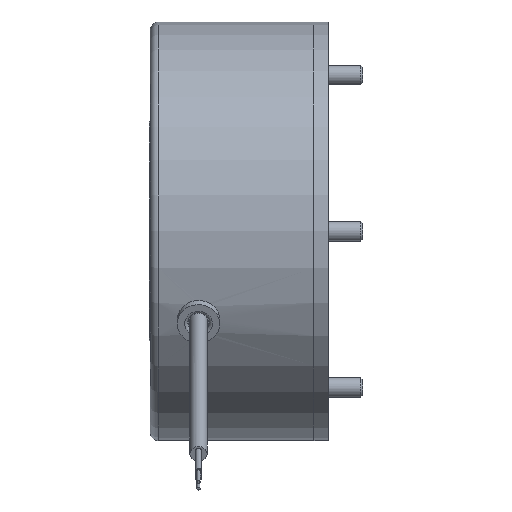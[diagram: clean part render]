
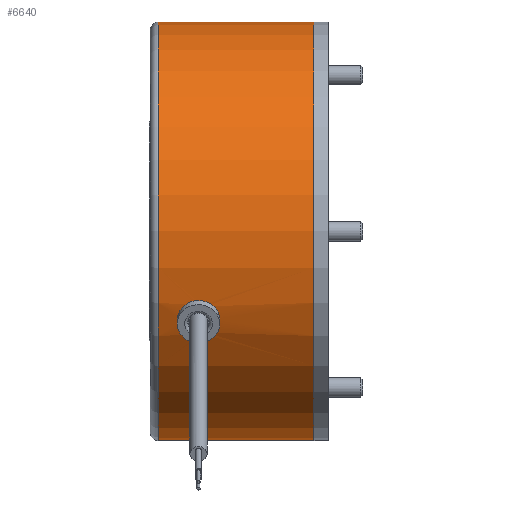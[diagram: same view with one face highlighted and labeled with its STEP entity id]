
A CAD part, front view. The second image highlights one B-rep face of the part: STEP entity #6640.
In plain terms, the highlighted cylindrical face has radius 65 mm (diameter 130 mm), a full revolution.
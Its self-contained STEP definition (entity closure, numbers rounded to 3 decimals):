
#164=B_SPLINE_CURVE_WITH_KNOTS('',3,(#10924,#10925,#10926,#10927,#10928,
#10929,#10930,#10931,#10932,#10933,#10934,#10935,#10936,#10937,#10938,#10939,
#10940,#10941,#10942),.UNSPECIFIED.,.F.,.F.,(4,2,2,2,3,2,2,2,4),(2.301,
2.493,2.685,2.877,3.068,3.26,
3.452,3.644,3.836),.UNSPECIFIED.);
#165=B_SPLINE_CURVE_WITH_KNOTS('',3,(#10945,#10946,#10947,#10948,#10949,
#10950,#10951,#10952,#10953,#10954,#10955,#10956,#10957,#10958,#10959,#10960,
#10961,#10962),.UNSPECIFIED.,.F.,.F.,(4,2,2,2,2,2,2,2,4),(0.767,
0.959,1.151,1.343,1.534,1.726,
1.918,2.109,2.301),.UNSPECIFIED.);
#397=CYLINDRICAL_SURFACE('',#7251,65.);
#544=FACE_BOUND('',#1577,.T.);
#791=CIRCLE('',#7234,65.);
#792=CIRCLE('',#7235,65.);
#800=CIRCLE('',#7245,65.);
#801=CIRCLE('',#7246,65.);
#805=CIRCLE('',#7250,65.);
#1201=FACE_OUTER_BOUND('',#1576,.T.);
#1576=EDGE_LOOP('',(#5140,#5141,#5142,#5143,#5144,#5145,#5146));
#1577=EDGE_LOOP('',(#5147,#5148,#5149,#5150,#5151,#5152));
#1960=LINE('',#11084,#2272);
#1961=LINE('',#11085,#2273);
#1962=LINE('',#11086,#2274);
#2272=VECTOR('',#8658,65.);
#2273=VECTOR('',#8659,10.);
#2274=VECTOR('',#8660,10.);
#2739=VERTEX_POINT('',#10922);
#2740=VERTEX_POINT('',#10923);
#2741=VERTEX_POINT('',#10965);
#2743=VERTEX_POINT('',#10969);
#2770=VERTEX_POINT('',#11052);
#2771=VERTEX_POINT('',#11053);
#2779=VERTEX_POINT('',#11072);
#2780=VERTEX_POINT('',#11073);
#2781=VERTEX_POINT('',#11075);
#3568=EDGE_CURVE('',#2739,#2740,#164,.T.);
#3570=EDGE_CURVE('',#2740,#2739,#165,.T.);
#3614=EDGE_CURVE('',#2770,#2771,#791,.T.);
#3615=EDGE_CURVE('',#2771,#2770,#792,.T.);
#3623=EDGE_CURVE('',#2779,#2780,#800,.T.);
#3624=EDGE_CURVE('',#2780,#2781,#801,.T.);
#3628=EDGE_CURVE('',#2781,#2779,#805,.T.);
#3629=EDGE_CURVE('',#2771,#2780,#1960,.T.);
#3630=EDGE_CURVE('',#2740,#2743,#1961,.T.);
#3631=EDGE_CURVE('',#2741,#2739,#1962,.T.);
#5140=ORIENTED_EDGE('',*,*,#3614,.F.);
#5141=ORIENTED_EDGE('',*,*,#3615,.F.);
#5142=ORIENTED_EDGE('',*,*,#3629,.T.);
#5143=ORIENTED_EDGE('',*,*,#3623,.F.);
#5144=ORIENTED_EDGE('',*,*,#3628,.F.);
#5145=ORIENTED_EDGE('',*,*,#3624,.F.);
#5146=ORIENTED_EDGE('',*,*,#3629,.F.);
#5147=ORIENTED_EDGE('',*,*,#3630,.T.);
#5148=ORIENTED_EDGE('',*,*,#3630,.F.);
#5149=ORIENTED_EDGE('',*,*,#3570,.T.);
#5150=ORIENTED_EDGE('',*,*,#3631,.F.);
#5151=ORIENTED_EDGE('',*,*,#3631,.T.);
#5152=ORIENTED_EDGE('',*,*,#3568,.T.);
#6640=ADVANCED_FACE('',(#1201,#544),#397,.T.);
#7234=AXIS2_PLACEMENT_3D('',#11054,#8622,#8623);
#7235=AXIS2_PLACEMENT_3D('',#11055,#8624,#8625);
#7245=AXIS2_PLACEMENT_3D('',#11074,#8644,#8645);
#7246=AXIS2_PLACEMENT_3D('',#11076,#8646,#8647);
#7250=AXIS2_PLACEMENT_3D('',#11082,#8654,#8655);
#7251=AXIS2_PLACEMENT_3D('',#11083,#8656,#8657);
#8622=DIRECTION('center_axis',(1.,0.,0.));
#8623=DIRECTION('ref_axis',(0.,1.,0.));
#8624=DIRECTION('center_axis',(1.,0.,0.));
#8625=DIRECTION('ref_axis',(0.,1.,0.));
#8644=DIRECTION('center_axis',(-1.,0.,0.));
#8645=DIRECTION('ref_axis',(0.,-1.,0.));
#8646=DIRECTION('center_axis',(-1.,0.,0.));
#8647=DIRECTION('ref_axis',(0.,-1.,0.));
#8654=DIRECTION('center_axis',(-1.,0.,0.));
#8655=DIRECTION('ref_axis',(0.,-1.,0.));
#8656=DIRECTION('center_axis',(1.,0.,0.));
#8657=DIRECTION('ref_axis',(0.,1.,0.));
#8658=DIRECTION('',(-1.,0.,0.));
#8659=DIRECTION('',(1.,0.,0.));
#8660=DIRECTION('',(1.,0.,0.));
#10922=CARTESIAN_POINT('',(-40.95,-58.91,-27.47));
#10923=CARTESIAN_POINT('',(-30.75,-58.91,-27.47));
#10924=CARTESIAN_POINT('Ctrl Pts',(-40.95,-58.91,-27.47));
#10925=CARTESIAN_POINT('Ctrl Pts',(-40.95,-59.18,-26.891));
#10926=CARTESIAN_POINT('Ctrl Pts',(-40.821,-59.459,
-26.268));
#10927=CARTESIAN_POINT('Ctrl Pts',(-40.299,-59.954,
-25.117));
#10928=CARTESIAN_POINT('Ctrl Pts',(-39.905,-60.172,
-24.588));
#10929=CARTESIAN_POINT('Ctrl Pts',(-38.998,-60.507,
-23.751));
#10930=CARTESIAN_POINT('Ctrl Pts',(-38.425,-60.647,
-23.387));
#10931=CARTESIAN_POINT('Ctrl Pts',(-37.171,-60.832,-22.903));
#10932=CARTESIAN_POINT('Ctrl Pts',(-36.489,-60.876,-22.784));
#10933=CARTESIAN_POINT('Ctrl Pts',(-35.85,-60.876,-22.784));
#10934=CARTESIAN_POINT('Ctrl Pts',(-35.211,-60.876,-22.784));
#10935=CARTESIAN_POINT('Ctrl Pts',(-34.529,-60.832,-22.903));
#10936=CARTESIAN_POINT('Ctrl Pts',(-33.275,-60.647,
-23.387));
#10937=CARTESIAN_POINT('Ctrl Pts',(-32.702,-60.507,-23.751));
#10938=CARTESIAN_POINT('Ctrl Pts',(-31.795,-60.172,
-24.588));
#10939=CARTESIAN_POINT('Ctrl Pts',(-31.401,-59.954,
-25.117));
#10940=CARTESIAN_POINT('Ctrl Pts',(-30.879,-59.459,-26.268));
#10941=CARTESIAN_POINT('Ctrl Pts',(-30.75,-59.18,-26.891));
#10942=CARTESIAN_POINT('Ctrl Pts',(-30.75,-58.91,-27.47));
#10945=CARTESIAN_POINT('Ctrl Pts',(-30.75,-58.91,-27.47));
#10946=CARTESIAN_POINT('Ctrl Pts',(-30.75,-58.64,-28.05));
#10947=CARTESIAN_POINT('Ctrl Pts',(-30.879,-58.342,
-28.663));
#10948=CARTESIAN_POINT('Ctrl Pts',(-31.401,-57.779,
-29.783));
#10949=CARTESIAN_POINT('Ctrl Pts',(-31.795,-57.513,
-30.289));
#10950=CARTESIAN_POINT('Ctrl Pts',(-32.702,-57.088,-31.084));
#10951=CARTESIAN_POINT('Ctrl Pts',(-33.275,-56.899,
-31.426));
#10952=CARTESIAN_POINT('Ctrl Pts',(-34.529,-56.647,
-31.878));
#10953=CARTESIAN_POINT('Ctrl Pts',(-35.211,-56.584,
-31.988));
#10954=CARTESIAN_POINT('Ctrl Pts',(-36.489,-56.584,
-31.988));
#10955=CARTESIAN_POINT('Ctrl Pts',(-37.171,-56.647,
-31.878));
#10956=CARTESIAN_POINT('Ctrl Pts',(-38.425,-56.899,
-31.426));
#10957=CARTESIAN_POINT('Ctrl Pts',(-38.998,-57.088,
-31.084));
#10958=CARTESIAN_POINT('Ctrl Pts',(-39.905,-57.513,
-30.289));
#10959=CARTESIAN_POINT('Ctrl Pts',(-40.299,-57.779,
-29.783));
#10960=CARTESIAN_POINT('Ctrl Pts',(-40.821,-58.342,
-28.663));
#10961=CARTESIAN_POINT('Ctrl Pts',(-40.95,-58.64,-28.05));
#10962=CARTESIAN_POINT('Ctrl Pts',(-40.95,-58.91,-27.47));
#10965=CARTESIAN_POINT('',(-42.45,-58.91,-27.47));
#10969=CARTESIAN_POINT('',(-29.25,-58.91,-27.47));
#11052=CARTESIAN_POINT('',(0.,65.,0.));
#11053=CARTESIAN_POINT('',(0.,-65.,0.));
#11054=CARTESIAN_POINT('Origin',(0.,0.,0.));
#11055=CARTESIAN_POINT('Origin',(0.,0.,0.));
#11072=CARTESIAN_POINT('',(-48.35,65.,0.));
#11073=CARTESIAN_POINT('',(-48.35,-65.,0.));
#11074=CARTESIAN_POINT('Origin',(-48.35,0.,0.));
#11075=CARTESIAN_POINT('',(-48.35,0.,65.));
#11076=CARTESIAN_POINT('Origin',(-48.35,0.,0.));
#11082=CARTESIAN_POINT('Origin',(-48.35,0.,0.));
#11083=CARTESIAN_POINT('Origin',(-25.425,0.,0.));
#11084=CARTESIAN_POINT('',(-25.425,-65.,0.));
#11085=CARTESIAN_POINT('',(-25.425,-58.91,-27.47));
#11086=CARTESIAN_POINT('',(-25.425,-58.91,-27.47));
